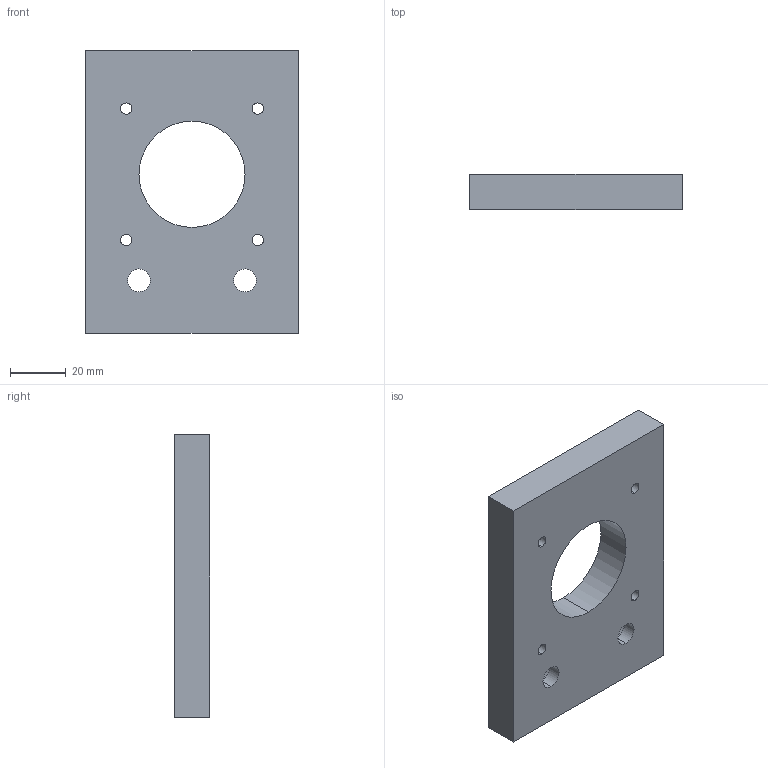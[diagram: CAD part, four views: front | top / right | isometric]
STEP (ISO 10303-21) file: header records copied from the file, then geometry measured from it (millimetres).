
FILE_DESCRIPTION (( 'STEP AP214' ), '1' );
FILE_NAME ('NEMA 23 Motor Mount (904 001).STEP', '2020-11-20T12:42:14', ( '' ), ( '' ), 'SwSTEP 2.0', 'SolidWorks 2020', '' );
FILE_SCHEMA (( 'AUTOMOTIVE_DESIGN' ));
Length unit declared in the file: inch
Products named in the file (1): NEMA 23 Motor Mount (904 001)
Bounding box: 76.2 x 12.7 x 101.6 mm (x, y, z)
Volume: 80387.7 mm3; surface area: 20470.2 mm2
Topology: 1 solids, 1 shells, 34 faces, 82 edges, 52 vertices
Faces by surface type: cylinder 18, cone 8, plane 8
Entity records: 1178 total; most frequent: DIRECTION 196, CARTESIAN_POINT 169, ORIENTED_EDGE 164, EDGE_CURVE 82, AXIS2_PLACEMENT_3D 79, VERTEX_POINT 52, EDGE_LOOP 50, CIRCLE 44
